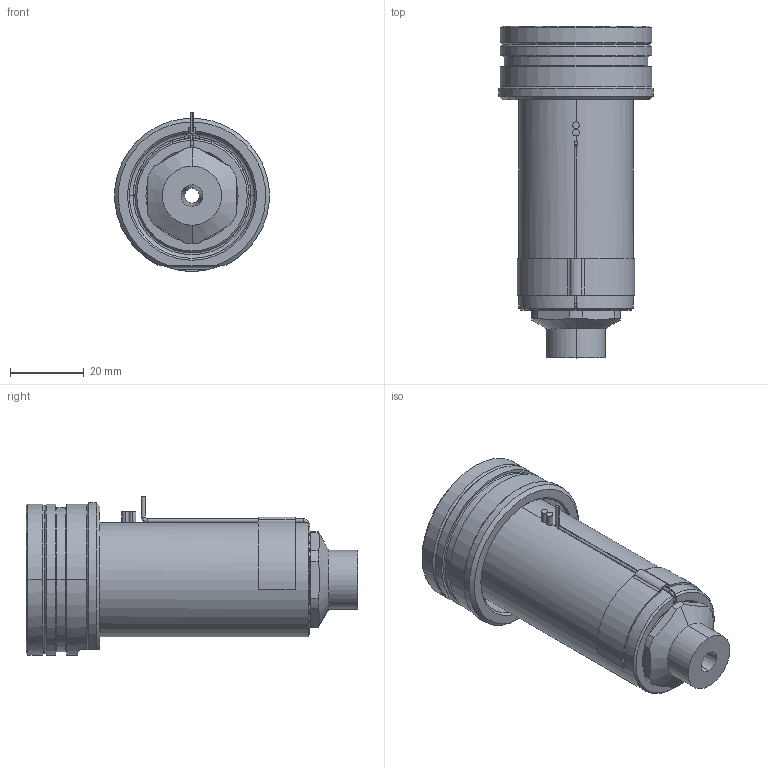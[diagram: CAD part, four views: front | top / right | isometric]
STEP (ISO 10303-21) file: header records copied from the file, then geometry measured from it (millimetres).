
FILE_DESCRIPTION((''),'2;1');
FILE_NAME('EO12_VG-ST_STD_070_SW','2024-02-19T12:49:50',('sundharh'),(''),'CREO PARAMETRIC BY PTC INC, 2023154','CREO PARAMETRIC BY PTC INC, 2023154','');
FILE_SCHEMA(('CONFIG_CONTROL_DESIGN'));
Length unit declared in the file: millimetre
Products named in the file (1): EO12_VG-ST_STD_070_SW
Bounding box: 41.85 x 90 x 43 mm (x, y, z)
Volume: 61977.2 mm3; surface area: 18724 mm2
Topology: 2 solids, 3 shells, 182 faces, 463 edges, 284 vertices
Faces by surface type: cylinder 65, plane 46, cone 37, torus 27, bspline 5, sphere 2
Entity records: 6231 total; most frequent: CARTESIAN_POINT 1724, DIRECTION 994, ORIENTED_EDGE 922, EDGE_CURVE 461, AXIS2_PLACEMENT_3D 415, VERTEX_POINT 284, CIRCLE 238, EDGE_LOOP 197
